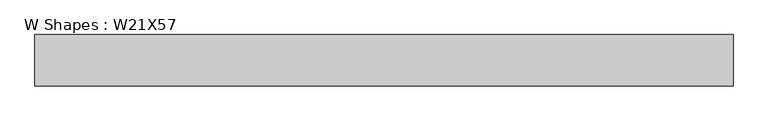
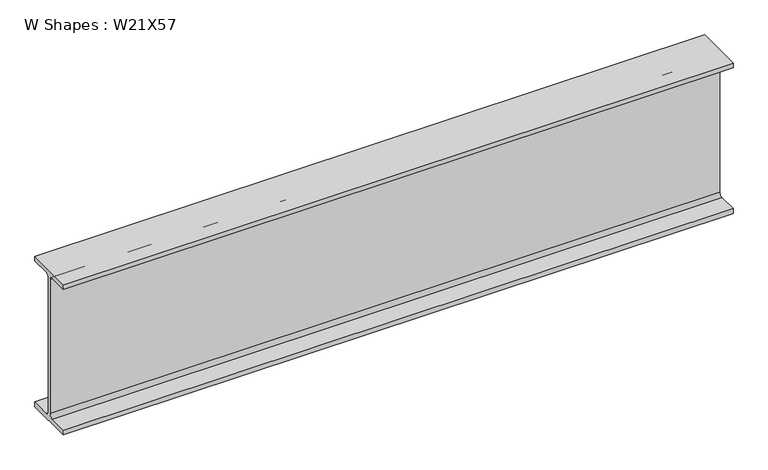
"""IFC4 building model written with IfcOpenShell, lengths in millimetres: beam geometry, W Shapes : W21X57."""

from ifc_helpers import new_model, si_unit, point, frame, frame_2d, origin, place, context, project, spatial, polyline, circle_curve, trimmed, segment, composite_curve, outline, extrude, source, transform, mapped, element, save


def w_shapes_w21x57_840b16e6(model_context):
    return source(origin(), model_context, "Body", "SweptSolid", [
        extrude(outline(composite_curve([segment(polyline([(83.312, -251.46), (83.312, -267.97), (-83.312, -267.97), (-83.312, -251.46), (-17.8435, -251.46)]), True, "CONTINUOUS"), segment(trimmed(circle_curve(frame_2d((-17.8435, -238.76)), 12.7), [point((-17.8435, -251.46))], [point((-5.1435, -238.76))], True, "CARTESIAN"), True, "CONTINUOUS"), segment(polyline([(-5.1435, -238.76), (-5.1435, 238.76)]), True, "CONTINUOUS"), segment(trimmed(circle_curve(frame_2d((-17.8435, 238.76)), 12.7), [point((-5.1435, 238.76))], [point((-17.8435, 251.46))], True, "CARTESIAN"), True, "CONTINUOUS"), segment(polyline([(-17.8435, 251.46), (-83.312, 251.46), (-83.312, 267.97), (83.312, 267.97), (83.312, 251.46), (17.8435, 251.46)]), True, "CONTINUOUS"), segment(trimmed(circle_curve(frame_2d((17.8435, 238.76)), 12.7), [point((17.8435, 251.46))], [point((5.1435, 238.76))], True, "CARTESIAN"), True, "CONTINUOUS"), segment(polyline([(5.1435, 238.76), (5.1435, -238.76)]), True, "CONTINUOUS"), segment(trimmed(circle_curve(frame_2d((17.8435, -238.76)), 12.7), [point((5.1435, -238.76))], [point((17.8435, -251.46))], True, "CARTESIAN"), True, "CONTINUOUS"), segment(polyline([(17.8435, -251.46), (83.312, -251.46)]), True, "CONTINUOUS")], self_intersect=False)), frame((-1153.988, 0.0, 0.0), z_axis=(1.0, 0.0, 0.0), x_axis=(0.0, 1.0, 0.0)), (0.0, 0.0, 1.0), 2257.938),
    ])


if __name__ == "__main__":
    model = new_model("IFC4")
    model_context = context("Model", 3, world=origin())
    ifc_project = project(units=[si_unit("LENGTHUNIT", "METRE", prefix="MILLI")], contexts=[model_context])
    site = spatial("IfcSite", under=ifc_project)
    building = spatial("IfcBuilding", under=site)
    placement = place(None, origin())
    w_shapes_w21x57_shape = w_shapes_w21x57_840b16e6(model_context)
    element("IfcBeam", 1, ObjectType="W Shapes : W21X57", at=placement, inside=building, context=model_context, shape_type="MappedRepresentation", body=[
        mapped(w_shapes_w21x57_shape, transform((0.0, 0.0, 0.0), x_axis=(1.0, 0.0, 0.0), y_axis=(0.0, 1.0, 0.0), z_axis=(0.0, 0.0, 1.0))),
    ])
    save(model, "model.ifc")
